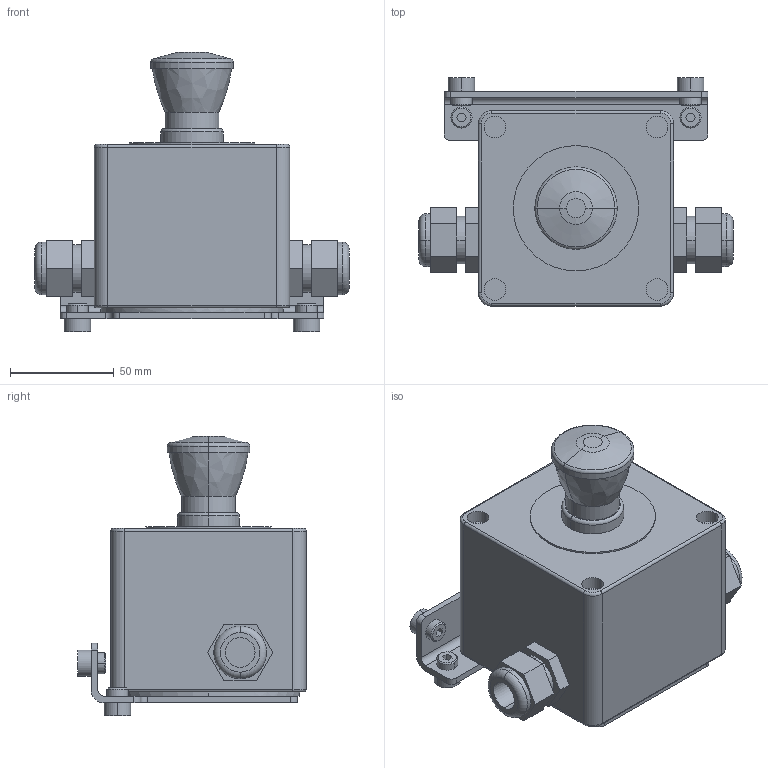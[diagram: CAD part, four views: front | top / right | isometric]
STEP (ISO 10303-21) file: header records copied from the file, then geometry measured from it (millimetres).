
FILE_DESCRIPTION((''),'2;1');
FILE_NAME('75M-ES','2016-01-25T',('jenni.wallner'),(''),'PRO/ENGINEER BY PARAMETRIC TECHNOLOGY CORPORATION, 2012420','PRO/ENGINEER BY PARAMETRIC TECHNOLOGY CORPORATION, 2012420','');
FILE_SCHEMA(('CONFIG_CONTROL_DESIGN'));
Length unit declared in the file: inch
Products named in the file (1): 75M-ES
Bounding box: 151.14 x 109.86 x 134.75 mm (x, y, z)
Volume: 804709.4 mm3; surface area: 76838.4 mm2
Topology: 1 solids, 5 shells, 247 faces, 574 edges, 368 vertices
Faces by surface type: plane 117, cylinder 100, torus 16, cone 10, bspline 4
Entity records: 7202 total; most frequent: DIRECTION 1322, CARTESIAN_POINT 1291, ORIENTED_EDGE 1140, EDGE_CURVE 570, AXIS2_PLACEMENT_3D 509, VERTEX_POINT 366, VECTOR 304, LINE 304
